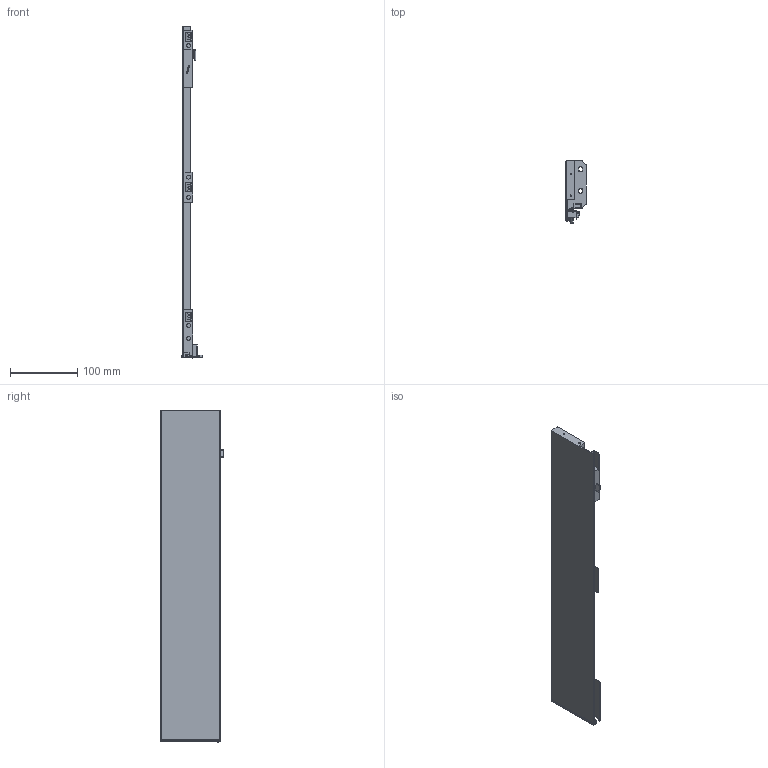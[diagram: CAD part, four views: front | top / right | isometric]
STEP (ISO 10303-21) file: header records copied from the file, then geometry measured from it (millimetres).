
FILE_DESCRIPTION (( 'STEP AP203' ), '1' );
FILE_NAME ('HE115001-L.STEP', '2021-03-30T01:39:06', ( 'Users' ), ( 'Microsoft' ), 'SwSTEP 2.0', 'SolidWorks 2018', '' );
FILE_SCHEMA (( 'CONFIG_CONTROL_DESIGN' ));
Length unit declared in the file: millimetre
Products named in the file (1): HE115001-L
Bounding box: 31 x 93.9 x 492.19 mm (x, y, z)
Volume: 413309 mm3; surface area: 112106.3 mm2
Topology: 1 solids, 1 shells, 455 faces, 1131 edges, 676 vertices
Faces by surface type: cylinder 190, plane 162, torus 74, bspline 24, cone 4, sphere 1
Entity records: 13811 total; most frequent: CARTESIAN_POINT 2998, DIRECTION 2327, ORIENTED_EDGE 2242, EDGE_CURVE 1121, AXIS2_PLACEMENT_3D 869, VERTEX_POINT 676, LINE 589, VECTOR 589
